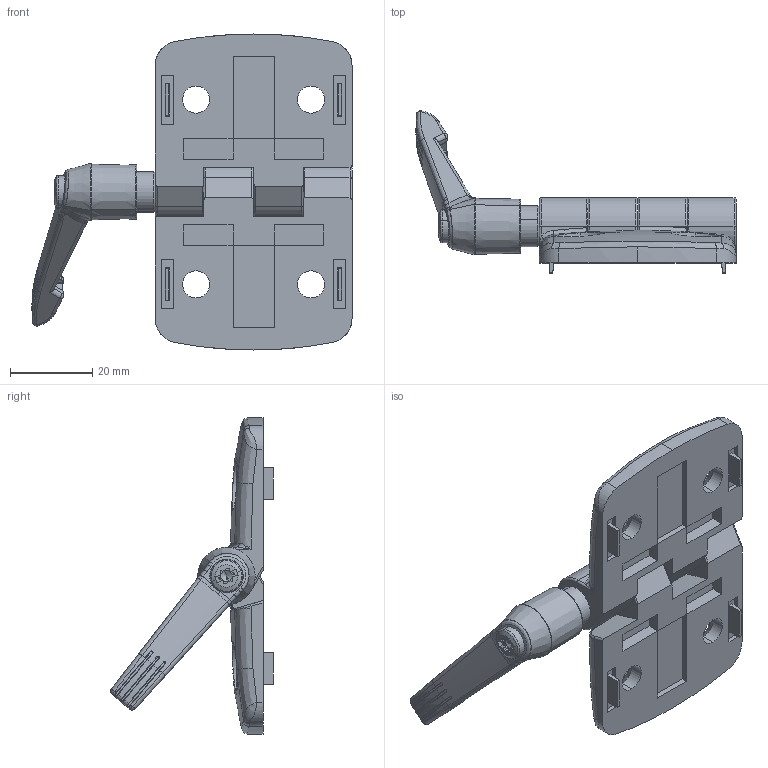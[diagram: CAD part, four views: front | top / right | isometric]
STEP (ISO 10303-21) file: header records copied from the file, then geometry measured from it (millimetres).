
FILE_DESCRIPTION(('STEP AP214'),'1');
FILE_NAME('C:/TPO v2/SharedFS/Outgoing/fath_095kf4040f08.stp','2016-08-26T09:56:09',('TraceParts'),('TraceParts S.A.'),'Spatial InterOp 3D',' ',' ');
FILE_SCHEMA(('automotive_design'));
Length unit declared in the file: millimetre
Products named in the file (5): fath_095kf4040f08_1; fath_095kf4040f08_2; fath_095kf4040f08_3; fath_095kf4040f08_4; fath_095kf4040f08_5
Bounding box: 77.99 x 39.6 x 77 mm (x, y, z)
Volume: 27516.5 mm3; surface area: 16895.6 mm2
Topology: 5 solids, 5 shells, 683 faces, 1605 edges, 934 vertices
Faces by surface type: plane 156, torus 141, bspline 141, cylinder 113, cone 112, sphere 20
Entity records: 23932 total; most frequent: CARTESIAN_POINT 9170, ORIENTED_EDGE 3178, DIRECTION 2994, EDGE_CURVE 1589, AXIS2_PLACEMENT_3D 1242, VERTEX_POINT 934, EDGE_LOOP 719, CIRCLE 695
